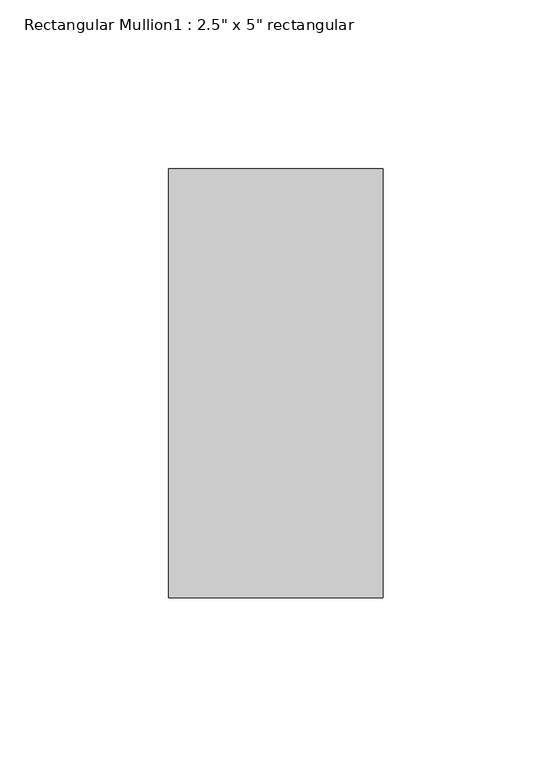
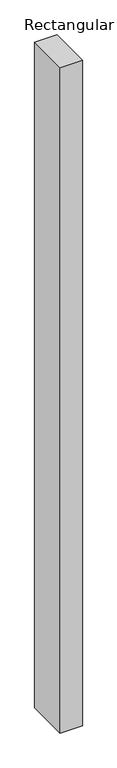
"""IFC4 building model written with IfcOpenShell, lengths in millimetres: member geometry."""

from ifc_helpers import new_model, si_unit, frame, origin, place, context, project, spatial, polyline, outline, extrude, source, transform, mapped, element, save


def member_5e46efc9(model_context):
    return source(origin(), model_context, "Body", "SweptSolid", [
        extrude(outline(polyline([(31.75, 63.5), (31.75, -63.5), (-31.75, -63.5), (-31.75, 63.5), (31.75, 63.5)])), frame((0.0, 0.0, -2021.4166667), z_axis=(0.0, 0.0, 1.0), x_axis=(1.0, 0.0, 0.0)), (0.0, 0.0, 1.0), 2021.4166667),
    ])


if __name__ == "__main__":
    model = new_model("IFC4")
    model_context = context("Model", 3, world=origin())
    ifc_project = project(units=[si_unit("LENGTHUNIT", "METRE", prefix="MILLI")], contexts=[model_context])
    site = spatial("IfcSite", under=ifc_project)
    building = spatial("IfcBuilding", under=site)
    placement = place(None, origin())
    member_shape = member_5e46efc9(model_context)
    element("IfcMember", 1, ObjectType="Rectangular Mullion1 : 2.5\" x 5\" rectangular", at=placement, inside=building, context=model_context, shape_type="MappedRepresentation", body=[
        mapped(member_shape, transform((0.0, 0.0, 0.0), x_axis=(1.0, 0.0, 0.0), y_axis=(0.0, 1.0, 0.0), z_axis=(0.0, 0.0, 1.0))),
    ])
    save(model, "model.ifc")
